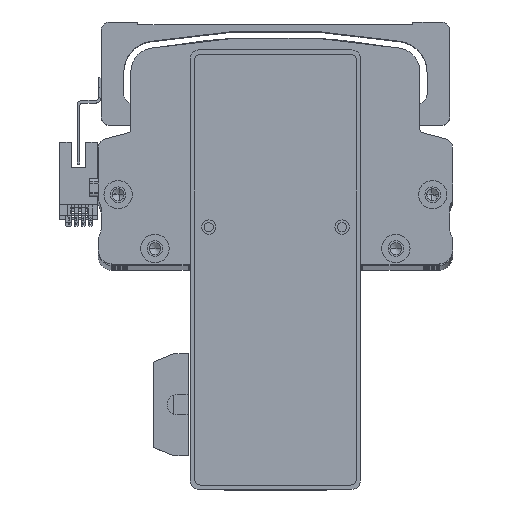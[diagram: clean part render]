
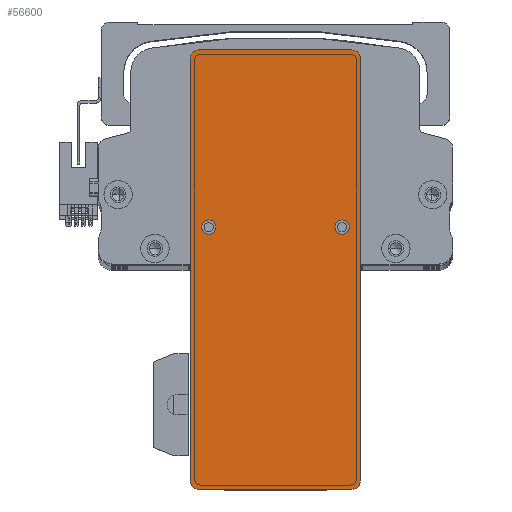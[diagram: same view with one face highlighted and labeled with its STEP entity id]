
A CAD part, top view. The second image highlights one B-rep face of the part: STEP entity #56600.
In plain terms, the highlighted planar face has unit normal (0, 0, 1) as drawn and (0, 0, -1) by its records, which use the part's own axes.
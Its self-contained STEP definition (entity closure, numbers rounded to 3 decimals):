
#506 = CARTESIAN_POINT ( 'NONE',  ( -74.5, -30., 0. ) ) ;
#967 = CIRCLE ( 'NONE', #43024, 2.5 ) ;
#1561 = CIRCLE ( 'NONE', #29876, 3. ) ;
#1571 = CARTESIAN_POINT ( 'NONE',  ( 74.5, 30., 0. ) ) ;
#2018 = FACE_BOUND ( 'NONE', #30926, .T. ) ;
#2484 = VERTEX_POINT ( 'NONE', #77756 ) ;
#2734 = VECTOR ( 'NONE', #81214, 1000. ) ;
#3010 = EDGE_CURVE ( 'NONE', #31928, #80125, #36842, .T. ) ;
#3832 = VECTOR ( 'NONE', #13459, 1000. ) ;
#5836 = LINE ( 'NONE', #64690, #3832 ) ;
#6163 = DIRECTION ( 'NONE',  ( 1., 0., 0. ) ) ;
#6262 = DIRECTION ( 'NONE',  ( 0., 0., -1. ) ) ;
#8402 = ORIENTED_EDGE ( 'NONE', *, *, #26876, .T. ) ;
#9619 = ORIENTED_EDGE ( 'NONE', *, *, #13239, .F. ) ;
#10739 = ORIENTED_EDGE ( 'NONE', *, *, #3010, .F. ) ;
#11300 = CIRCLE ( 'NONE', #39570, 2.5 ) ;
#12811 = CARTESIAN_POINT ( 'NONE',  ( 74.5, -30., 0. ) ) ;
#13239 = EDGE_CURVE ( 'NONE', #33929, #51487, #64228, .T. ) ;
#13459 = DIRECTION ( 'NONE',  ( 0., 1., 0. ) ) ;
#13966 = CARTESIAN_POINT ( 'NONE',  ( -77.5, -27., 0. ) ) ;
#14112 = CARTESIAN_POINT ( 'NONE',  ( 15., 23.5, 0. ) ) ;
#15668 = ORIENTED_EDGE ( 'NONE', *, *, #82908, .F. ) ;
#15670 = EDGE_LOOP ( 'NONE', ( #33854, #76898, #9619, #8402, #10739, #78652, #70476, #24855 ) ) ;
#18155 = CARTESIAN_POINT ( 'NONE',  ( 74.5, 27., 0. ) ) ;
#18547 = CARTESIAN_POINT ( 'NONE',  ( 15., -23.5, 0. ) ) ;
#18685 = CARTESIAN_POINT ( 'NONE',  ( 15., 23.5, 0. ) ) ;
#18952 = DIRECTION ( 'NONE',  ( -1., 0., 0. ) ) ;
#20513 = DIRECTION ( 'NONE',  ( -1., 0., 0. ) ) ;
#22107 = VECTOR ( 'NONE', #18952, 1000. ) ;
#22971 = EDGE_CURVE ( 'NONE', #31928, #2484, #80734, .T. ) ;
#24589 = DIRECTION ( 'NONE',  ( 1., 0., 0. ) ) ;
#24855 = ORIENTED_EDGE ( 'NONE', *, *, #77469, .T. ) ;
#25003 = DIRECTION ( 'NONE',  ( -1., 0., 0. ) ) ;
#25136 = DIRECTION ( 'NONE',  ( -1., 0., 0. ) ) ;
#25903 = CARTESIAN_POINT ( 'NONE',  ( 74.5, -27., 0. ) ) ;
#26876 = EDGE_CURVE ( 'NONE', #33929, #80125, #1561, .T. ) ;
#27628 = PLANE ( 'NONE',  #80659 ) ;
#27893 = CARTESIAN_POINT ( 'NONE',  ( 0., 0., 0. ) ) ;
#28095 = VERTEX_POINT ( 'NONE', #36286 ) ;
#28146 = AXIS2_PLACEMENT_3D ( 'NONE', #18547, #63365, #25003 ) ;
#28675 = VERTEX_POINT ( 'NONE', #43542 ) ;
#29876 = AXIS2_PLACEMENT_3D ( 'NONE', #72913, #34535, #79342 ) ;
#30870 = CARTESIAN_POINT ( 'NONE',  ( 77.5, 27., 0. ) ) ;
#30926 = EDGE_LOOP ( 'NONE', ( #37177, #65812 ) ) ;
#31928 = VERTEX_POINT ( 'NONE', #52535 ) ;
#32064 = CIRCLE ( 'NONE', #51108, 2.5 ) ;
#32285 = EDGE_CURVE ( 'NONE', #52377, #70620, #35601, .T. ) ;
#32341 = DIRECTION ( 'NONE',  ( 1., 0., 0. ) ) ;
#33854 = ORIENTED_EDGE ( 'NONE', *, *, #75787, .F. ) ;
#33929 = VERTEX_POINT ( 'NONE', #506 ) ;
#34330 = EDGE_CURVE ( 'NONE', #63312, #28675, #11300, .T. ) ;
#34361 = DIRECTION ( 'NONE',  ( 1., 0., 0. ) ) ;
#34535 = DIRECTION ( 'NONE',  ( 0., 0., -1. ) ) ;
#35601 = CIRCLE ( 'NONE', #28146, 2.5 ) ;
#36286 = CARTESIAN_POINT ( 'NONE',  ( 77.5, -27., 0. ) ) ;
#36461 = CARTESIAN_POINT ( 'NONE',  ( 12.5, -23.5, 0. ) ) ;
#36842 = LINE ( 'NONE', #74423, #2734 ) ;
#37177 = ORIENTED_EDGE ( 'NONE', *, *, #34330, .F. ) ;
#39513 = CIRCLE ( 'NONE', #47973, 3. ) ;
#39570 = AXIS2_PLACEMENT_3D ( 'NONE', #18685, #63500, #25136 ) ;
#43024 = AXIS2_PLACEMENT_3D ( 'NONE', #44681, #6262, #51142 ) ;
#43542 = CARTESIAN_POINT ( 'NONE',  ( 17.5, 23.5, 0. ) ) ;
#44568 = DIRECTION ( 'NONE',  ( 0., 0., -1. ) ) ;
#44681 = CARTESIAN_POINT ( 'NONE',  ( 15., -23.5, 0. ) ) ;
#45894 = AXIS2_PLACEMENT_3D ( 'NONE', #25903, #70727, #32341 ) ;
#47805 = AXIS2_PLACEMENT_3D ( 'NONE', #82975, #44568, #6163 ) ;
#47973 = AXIS2_PLACEMENT_3D ( 'NONE', #18155, #62976, #24589 ) ;
#51108 = AXIS2_PLACEMENT_3D ( 'NONE', #14112, #58914, #20513 ) ;
#51142 = DIRECTION ( 'NONE',  ( -1., 0., 0. ) ) ;
#51380 = CIRCLE ( 'NONE', #45894, 3. ) ;
#51487 = VERTEX_POINT ( 'NONE', #12811 ) ;
#52377 = VERTEX_POINT ( 'NONE', #36461 ) ;
#52535 = CARTESIAN_POINT ( 'NONE',  ( -77.5, 27., 0. ) ) ;
#56248 = LINE ( 'NONE', #57350, #22107 ) ;
#56600 = ADVANCED_FACE ( 'NONE', ( #2018, #68204, #72240 ), #27628, .F. ) ;
#57350 = CARTESIAN_POINT ( 'NONE',  ( 77.5, 30., 0. ) ) ;
#58694 = CARTESIAN_POINT ( 'NONE',  ( 17.5, -23.5, 0. ) ) ;
#58914 = DIRECTION ( 'NONE',  ( 0., 0., -1. ) ) ;
#61373 = CARTESIAN_POINT ( 'NONE',  ( 77.5, -30., 0. ) ) ;
#62976 = DIRECTION ( 'NONE',  ( 0., 0., -1. ) ) ;
#63312 = VERTEX_POINT ( 'NONE', #79199 ) ;
#63365 = DIRECTION ( 'NONE',  ( 0., 0., -1. ) ) ;
#63500 = DIRECTION ( 'NONE',  ( 0., 0., -1. ) ) ;
#64228 = LINE ( 'NONE', #61373, #79260 ) ;
#64690 = CARTESIAN_POINT ( 'NONE',  ( 77.5, -30., 0. ) ) ;
#64882 = ORIENTED_EDGE ( 'NONE', *, *, #32285, .F. ) ;
#65812 = ORIENTED_EDGE ( 'NONE', *, *, #75267, .F. ) ;
#66214 = VERTEX_POINT ( 'NONE', #1571 ) ;
#67295 = VERTEX_POINT ( 'NONE', #30870 ) ;
#68204 = FACE_BOUND ( 'NONE', #71090, .T. ) ;
#70454 = EDGE_CURVE ( 'NONE', #66214, #2484, #56248, .T. ) ;
#70476 = ORIENTED_EDGE ( 'NONE', *, *, #70454, .F. ) ;
#70620 = VERTEX_POINT ( 'NONE', #58694 ) ;
#70727 = DIRECTION ( 'NONE',  ( 0., 0., -1. ) ) ;
#71090 = EDGE_LOOP ( 'NONE', ( #64882, #15668 ) ) ;
#72240 = FACE_OUTER_BOUND ( 'NONE', #15670, .T. ) ;
#72732 = DIRECTION ( 'NONE',  ( 0., 0., 1. ) ) ;
#72913 = CARTESIAN_POINT ( 'NONE',  ( -74.5, -27., 0. ) ) ;
#74423 = CARTESIAN_POINT ( 'NONE',  ( -77.5, -30., 0. ) ) ;
#75267 = EDGE_CURVE ( 'NONE', #28675, #63312, #32064, .T. ) ;
#75787 = EDGE_CURVE ( 'NONE', #28095, #67295, #5836, .T. ) ;
#76898 = ORIENTED_EDGE ( 'NONE', *, *, #78165, .T. ) ;
#77469 = EDGE_CURVE ( 'NONE', #66214, #67295, #39513, .T. ) ;
#77756 = CARTESIAN_POINT ( 'NONE',  ( -74.5, 30., 0. ) ) ;
#78165 = EDGE_CURVE ( 'NONE', #28095, #51487, #51380, .T. ) ;
#78652 = ORIENTED_EDGE ( 'NONE', *, *, #22971, .T. ) ;
#79199 = CARTESIAN_POINT ( 'NONE',  ( 12.5, 23.5, 0. ) ) ;
#79260 = VECTOR ( 'NONE', #80763, 1000. ) ;
#79342 = DIRECTION ( 'NONE',  ( 1., 0., 0. ) ) ;
#80125 = VERTEX_POINT ( 'NONE', #13966 ) ;
#80659 = AXIS2_PLACEMENT_3D ( 'NONE', #27893, #72732, #34361 ) ;
#80734 = CIRCLE ( 'NONE', #47805, 3. ) ;
#80763 = DIRECTION ( 'NONE',  ( 1., 0., 0. ) ) ;
#81214 = DIRECTION ( 'NONE',  ( 0., -1., 0. ) ) ;
#82908 = EDGE_CURVE ( 'NONE', #70620, #52377, #967, .T. ) ;
#82975 = CARTESIAN_POINT ( 'NONE',  ( -74.5, 27., 0. ) ) ;
